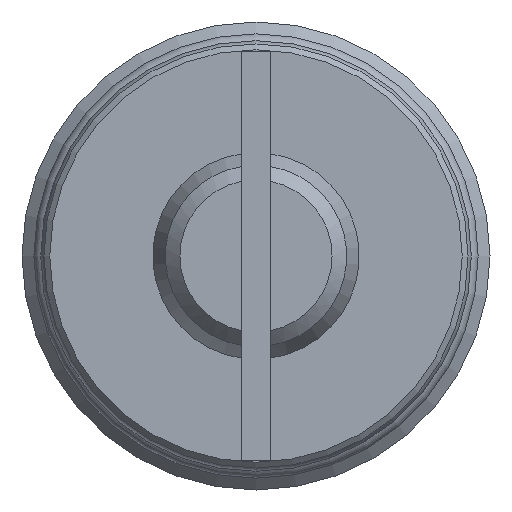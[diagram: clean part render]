
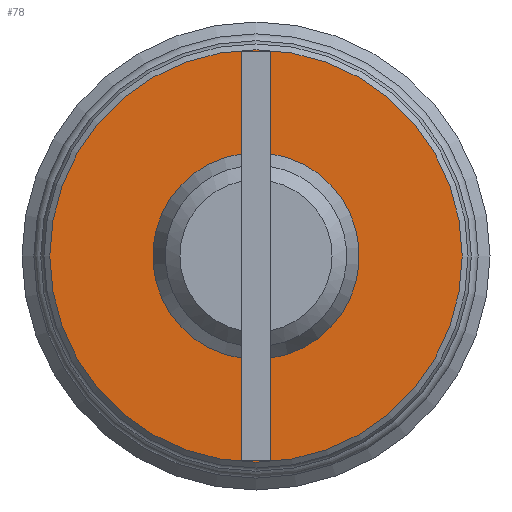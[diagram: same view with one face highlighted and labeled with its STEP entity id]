
A CAD part, left-side view. The second image highlights one B-rep face of the part: STEP entity #78.
In plain terms, the highlighted planar face has unit normal (-1, 0, 0).
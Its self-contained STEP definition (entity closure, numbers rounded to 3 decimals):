
#78 = ADVANCED_FACE( '', ( #194, #195 ), #196, .F. );
#194 = FACE_OUTER_BOUND( '', #363, .T. );
#195 = FACE_BOUND( '', #364, .T. );
#196 = PLANE( '', #365 );
#363 = EDGE_LOOP( '', ( #539 ) );
#364 = EDGE_LOOP( '', ( #540, #541, #542, #543, #544, #545, #546, #547 ) );
#365 = AXIS2_PLACEMENT_3D( '', #548, #549, #550 );
#539 = ORIENTED_EDGE( '', *, *, #932, .F. );
#540 = ORIENTED_EDGE( '', *, *, #933, .T. );
#541 = ORIENTED_EDGE( '', *, *, #934, .T. );
#542 = ORIENTED_EDGE( '', *, *, #935, .T. );
#543 = ORIENTED_EDGE( '', *, *, #936, .T. );
#544 = ORIENTED_EDGE( '', *, *, #937, .T. );
#545 = ORIENTED_EDGE( '', *, *, #938, .T. );
#546 = ORIENTED_EDGE( '', *, *, #939, .T. );
#547 = ORIENTED_EDGE( '', *, *, #940, .T. );
#548 = CARTESIAN_POINT( '', ( 0., 0., 0. ) );
#549 = DIRECTION( '', ( 1., 0., 0. ) );
#550 = DIRECTION( '', ( 0., 0., -1. ) );
#932 = EDGE_CURVE( '', #1096, #1096, #1097, .T. );
#933 = EDGE_CURVE( '', #1098, #1099, #1100, .T. );
#934 = EDGE_CURVE( '', #1099, #1101, #1102, .T. );
#935 = EDGE_CURVE( '', #1101, #1103, #1104, .T. );
#936 = EDGE_CURVE( '', #1103, #1105, #1106, .T. );
#937 = EDGE_CURVE( '', #1105, #1107, #1108, .T. );
#938 = EDGE_CURVE( '', #1107, #1109, #1110, .T. );
#939 = EDGE_CURVE( '', #1109, #1111, #1112, .T. );
#940 = EDGE_CURVE( '', #1111, #1098, #1113, .T. );
#1096 = VERTEX_POINT( '', #1331 );
#1097 = CIRCLE( '', #1332, 7.05 );
#1098 = VERTEX_POINT( '', #1333 );
#1099 = VERTEX_POINT( '', #1334 );
#1100 = CIRCLE( '', #1335, 3.53 );
#1101 = VERTEX_POINT( '', #1336 );
#1102 = LINE( '', #1337, #1338 );
#1103 = VERTEX_POINT( '', #1339 );
#1104 = LINE( '', #1340, #1341 );
#1105 = VERTEX_POINT( '', #1342 );
#1106 = LINE( '', #1343, #1344 );
#1107 = VERTEX_POINT( '', #1345 );
#1108 = CIRCLE( '', #1346, 3.53 );
#1109 = VERTEX_POINT( '', #1347 );
#1110 = LINE( '', #1348, #1349 );
#1111 = VERTEX_POINT( '', #1350 );
#1112 = LINE( '', #1351, #1352 );
#1113 = LINE( '', #1353, #1354 );
#1331 = CARTESIAN_POINT( '', ( 0., 0., -7.05 ) );
#1332 = AXIS2_PLACEMENT_3D( '', #1648, #1649, #1650 );
#1333 = CARTESIAN_POINT( '', ( 0., -0.5, 3.494 ) );
#1334 = CARTESIAN_POINT( '', ( 0., -0.5, -3.494 ) );
#1335 = AXIS2_PLACEMENT_3D( '', #1651, #1652, #1653 );
#1336 = CARTESIAN_POINT( '', ( 0., -0.5, -7. ) );
#1337 = CARTESIAN_POINT( '', ( 0., -0.5, 7. ) );
#1338 = VECTOR( '', #1654, 1000. );
#1339 = CARTESIAN_POINT( '', ( 0., 0.5, -7. ) );
#1340 = CARTESIAN_POINT( '', ( 0., -0.5, -7. ) );
#1341 = VECTOR( '', #1655, 1000. );
#1342 = CARTESIAN_POINT( '', ( 0., 0.5, -3.494 ) );
#1343 = CARTESIAN_POINT( '', ( 0., 0.5, -7. ) );
#1344 = VECTOR( '', #1656, 1000. );
#1345 = CARTESIAN_POINT( '', ( 0., 0.5, 3.494 ) );
#1346 = AXIS2_PLACEMENT_3D( '', #1657, #1658, #1659 );
#1347 = CARTESIAN_POINT( '', ( 0., 0.5, 7. ) );
#1348 = CARTESIAN_POINT( '', ( 0., 0.5, -7. ) );
#1349 = VECTOR( '', #1660, 1000. );
#1350 = CARTESIAN_POINT( '', ( 0., -0.5, 7. ) );
#1351 = CARTESIAN_POINT( '', ( 0., 0.5, 7. ) );
#1352 = VECTOR( '', #1661, 1000. );
#1353 = CARTESIAN_POINT( '', ( 0., -0.5, 7. ) );
#1354 = VECTOR( '', #1662, 1000. );
#1648 = CARTESIAN_POINT( '', ( 0., 0., 0. ) );
#1649 = DIRECTION( '', ( 1., 0., 0. ) );
#1650 = DIRECTION( '', ( 0., 0., -1. ) );
#1651 = CARTESIAN_POINT( '', ( 0., 0., 0. ) );
#1652 = DIRECTION( '', ( 1., 0., 0. ) );
#1653 = DIRECTION( '', ( 0., 0., -1. ) );
#1654 = DIRECTION( '', ( 0., 0., -1. ) );
#1655 = DIRECTION( '', ( 0., 1., 0. ) );
#1656 = DIRECTION( '', ( 0., 0., 1. ) );
#1657 = CARTESIAN_POINT( '', ( 0., 0., 0. ) );
#1658 = DIRECTION( '', ( 1., 0., 0. ) );
#1659 = DIRECTION( '', ( 0., 0., -1. ) );
#1660 = DIRECTION( '', ( 0., 0., 1. ) );
#1661 = DIRECTION( '', ( 0., -1., 0. ) );
#1662 = DIRECTION( '', ( 0., 0., -1. ) );
